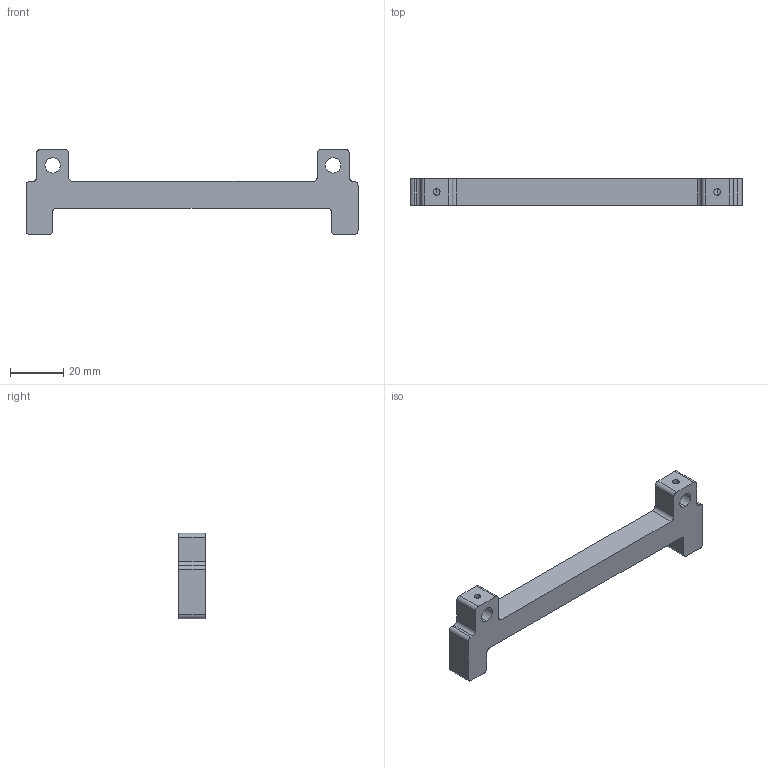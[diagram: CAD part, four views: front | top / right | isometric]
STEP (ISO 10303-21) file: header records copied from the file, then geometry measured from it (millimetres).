
FILE_DESCRIPTION (( 'STEP AP214' ), '1' );
FILE_NAME ('TR-100 Bottom Bracket.STEP', '2018-06-28T19:14:54', ( '' ), ( '' ), 'SwSTEP 2.0', 'SolidWorks 2017', '' );
FILE_SCHEMA (( 'AUTOMOTIVE_DESIGN' ));
Length unit declared in the file: millimetre
Products named in the file (1): TR-100 Bottom Bracket
Bounding box: 124.3 x 10 x 32 mm (x, y, z)
Volume: 16595.4 mm3; surface area: 7437.1 mm2
Topology: 1 solids, 1 shells, 48 faces, 138 edges, 92 vertices
Faces by surface type: cylinder 28, plane 20
Entity records: 1720 total; most frequent: CARTESIAN_POINT 371, DIRECTION 280, ORIENTED_EDGE 276, EDGE_CURVE 138, AXIS2_PLACEMENT_3D 101, VERTEX_POINT 92, LINE 78, VECTOR 78
